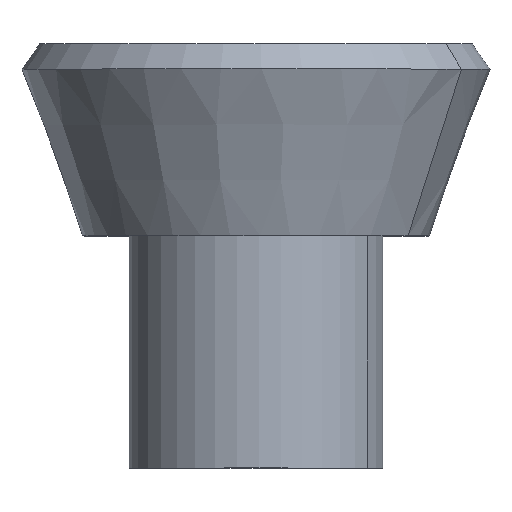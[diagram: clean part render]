
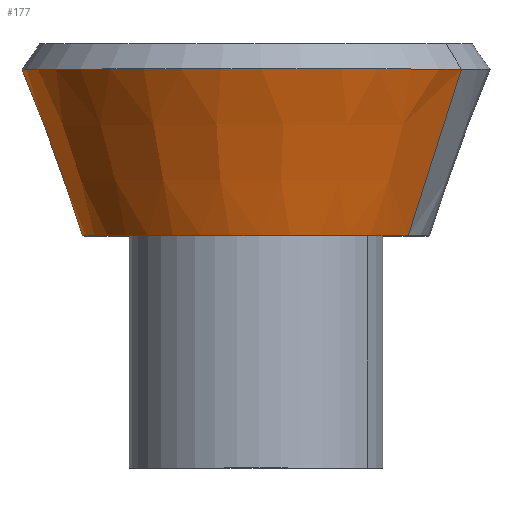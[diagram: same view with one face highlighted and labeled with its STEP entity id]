
A CAD part, top view. The second image highlights one B-rep face of the part: STEP entity #177.
In plain terms, the highlighted conical face has half-angle 20 degrees and reference radius 112 mm.
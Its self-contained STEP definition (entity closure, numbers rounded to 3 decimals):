
#114=CARTESIAN_POINT('Axis2P3D Location',(0.,0.,0.)) ;
#118=CARTESIAN_POINT('Vertex',(98.289,0.,53.696)) ;
#120=CARTESIAN_POINT('Vertex',(-98.289,0.,-53.696)) ;
#147=CARTESIAN_POINT('Axis2P3D Location',(0.,0.,0.)) ;
#152=CARTESIAN_POINT('Line Origine',(115.483,53.828,63.088)) ;
#156=CARTESIAN_POINT('Vertex',(132.676,107.656,72.481)) ;
#159=CARTESIAN_POINT('Axis2P3D Location',(0.,107.656,0.)) ;
#163=CARTESIAN_POINT('Vertex',(-132.676,107.656,-72.481)) ;
#166=CARTESIAN_POINT('Line Origine',(-115.483,53.828,-63.088)) ;
#115=DIRECTION('Axis2P3D Direction',(0.,-1.,0.)) ;
#148=DIRECTION('Axis2P3D Direction',(-0.,1.,-0.)) ;
#149=DIRECTION('Axis2P3D XDirection',(0.878,0.,0.479)) ;
#153=DIRECTION('Vector Direction',(0.3,0.94,0.164)) ;
#160=DIRECTION('Axis2P3D Direction',(0.,1.,-0.)) ;
#167=DIRECTION('Vector Direction',(-0.3,0.94,-0.164)) ;
#116=AXIS2_PLACEMENT_3D('Circle Axis2P3D',#114,#115,$) ;
#150=AXIS2_PLACEMENT_3D('Cone Axis2P3D',#147,#148,#149) ;
#161=AXIS2_PLACEMENT_3D('Circle Axis2P3D',#159,#160,$) ;
#172=ORIENTED_EDGE('',*,*,#122,.F.) ;
#173=ORIENTED_EDGE('',*,*,#158,.T.) ;
#174=ORIENTED_EDGE('',*,*,#165,.T.) ;
#175=ORIENTED_EDGE('',*,*,#170,.F.) ;
#154=VECTOR('Line Direction',#153,1.) ;
#168=VECTOR('Line Direction',#167,1.) ;
#177=ADVANCED_FACE('PartBody',(#176),#151,.T.) ;
#117=CIRCLE('generated circle',#116,112.) ;
#162=CIRCLE('generated circle',#161,151.184) ;
#151=CONICAL_SURFACE('Cone',#150,112.,0.349) ;
#122=EDGE_CURVE('',#119,#121,#117,.T.) ;
#158=EDGE_CURVE('',#119,#157,#155,.T.) ;
#165=EDGE_CURVE('',#157,#164,#162,.F.) ;
#170=EDGE_CURVE('',#121,#164,#169,.T.) ;
#171=EDGE_LOOP('',(#172,#173,#174,#175)) ;
#176=FACE_OUTER_BOUND('',#171,.T.) ;
#155=LINE('Line',#152,#154) ;
#169=LINE('Line',#166,#168) ;
#119=VERTEX_POINT('',#118) ;
#121=VERTEX_POINT('',#120) ;
#157=VERTEX_POINT('',#156) ;
#164=VERTEX_POINT('',#163) ;
